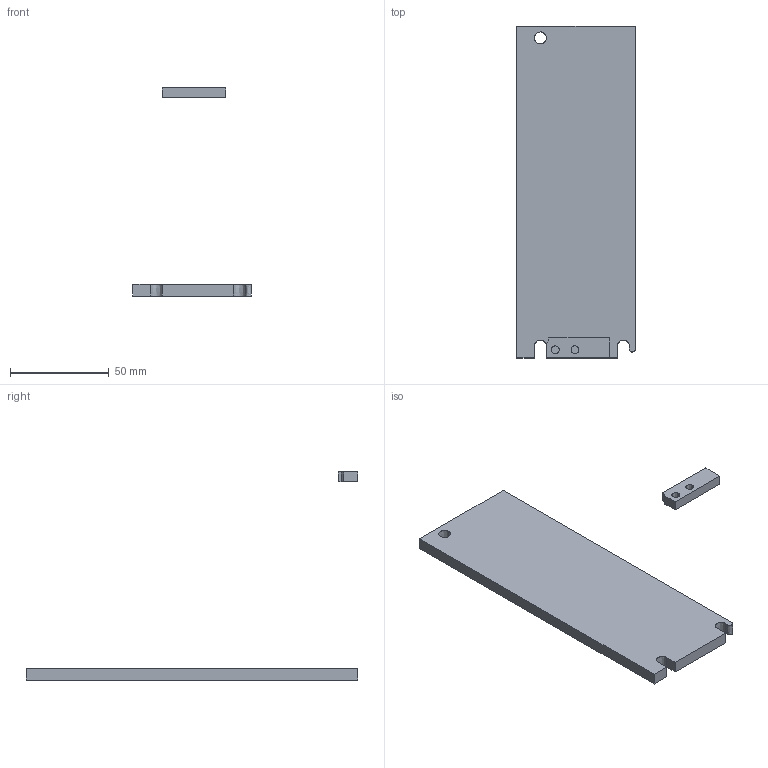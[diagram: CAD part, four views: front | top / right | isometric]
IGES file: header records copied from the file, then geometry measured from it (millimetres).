
Start section:  PTC IGES file: j4-70-100-chassis.igs
Global section: file name: j4-70-100-chassis.igs; native system: Pro/ENGINEER by Parametric Technology Corporation; preprocessor: 2011490; author: JE18792; organization: Unknown; date: 20131128.192057; units: millimetre
Bounding box: 60 x 168 x 105.4 mm (x, y, z)
Volume: 61110.6 mm3; surface area: 24000.3 mm2
Topology: 2 solids, 2 shells, 28 faces, 72 edges, 48 vertices
Faces by surface type: bspline 28
